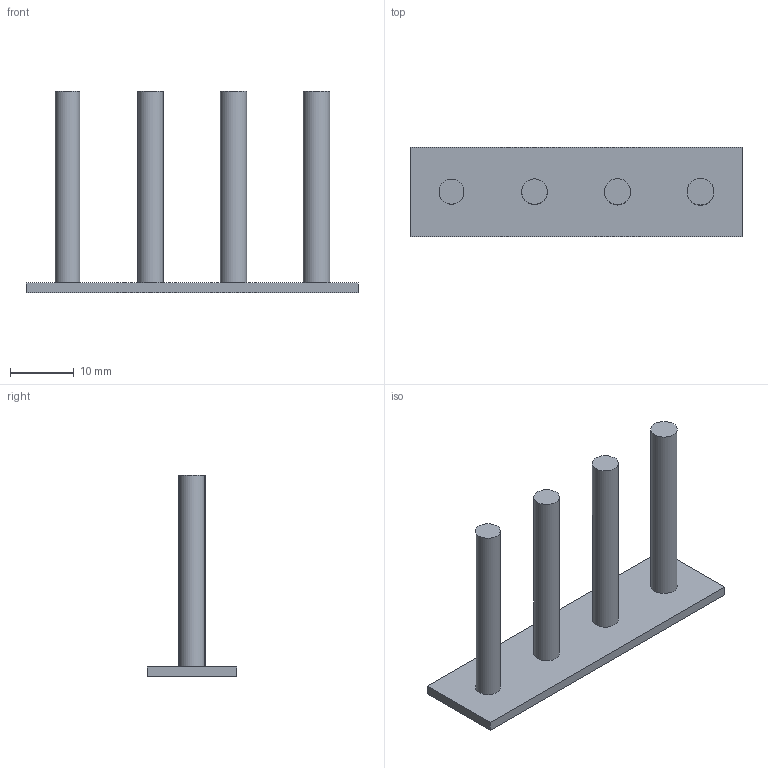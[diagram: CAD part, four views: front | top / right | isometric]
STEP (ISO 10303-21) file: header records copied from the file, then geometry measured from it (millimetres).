
FILE_DESCRIPTION(('Open CASCADE Model'),'2;1');
FILE_NAME('Open CASCADE Shape Model','2026-11-05T10:33:08',('Author'),( 'Open CASCADE'),'Open CASCADE STEP processor 8.0','build123d', 'Unknown');
FILE_SCHEMA(('AUTOMOTIVE_DESIGN { 1 0 10303 214 1 1 1 1 }'));
Length unit declared in the file: millimetre
Products named in the file (1): COMPOUND
Bounding box: 52 x 14 x 31.5 mm (x, y, z)
Volume: 2639.1 mm3; surface area: 3180.8 mm2
Topology: 1 solids, 1 shells, 14 faces, 24 edges, 16 vertices
Faces by surface type: plane 10, cylinder 4
Full cylindrical faces by diameter (mm): 3.9 x1, 4 x1, 4.1 x1, 4.2 x1
Entity records: 658 total; most frequent: DIRECTION 110, CARTESIAN_POINT 103, LINE 56, VECTOR 56, ORIENTED_EDGE 48, PCURVE 48, DEFINITIONAL_REPRESENTATION 48, EDGE_CURVE 24
